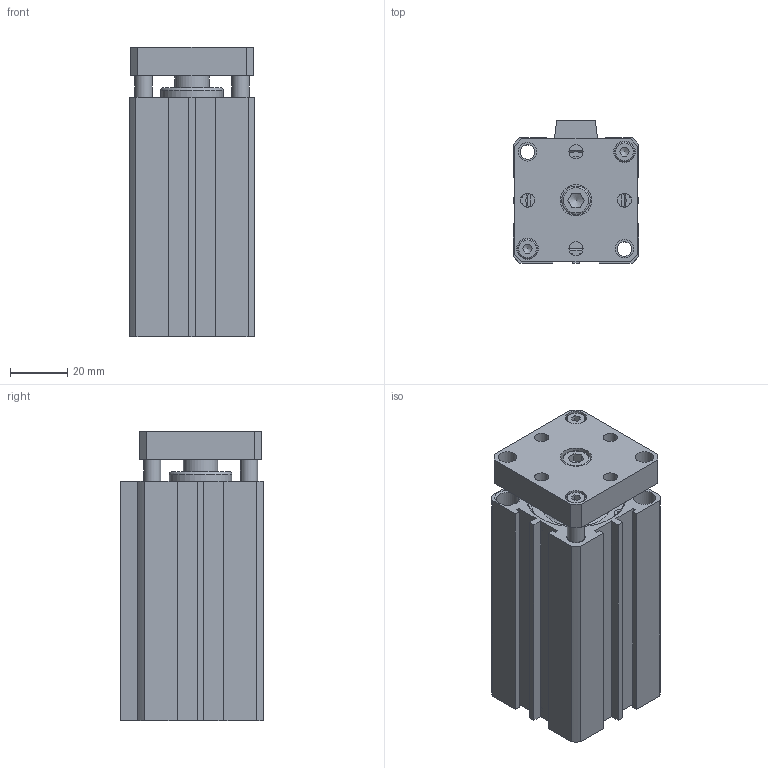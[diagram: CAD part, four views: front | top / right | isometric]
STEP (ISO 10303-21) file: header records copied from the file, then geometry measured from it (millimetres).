
FILE_DESCRIPTION((''),'2;1');
FILE_NAME('I:\3D電子目錄\氣缸\JTD\JTD\JTD32\JTD32x60.stp','2007-08-09T20:29:59',('Administrator'),(''),'Autodesk Inventor 11','Autodesk Inventor 11','');
FILE_SCHEMA(('AUTOMOTIVE_DESIGN { 1 0 10303 214 1 1 1 1 }'));
Length unit declared in the file: millimetre
Products named in the file (5): JTD32; R 形環 35; ISO 4762 M6 x 10; ISO 4762 M4 x 10
Assembly tree (6 placements, depth 2):
  JTD32
    JTD32
    R 形環 35  x2
    ISO 4762 M6 x 10
    ISO 4762 M4 x 10  x2
Bounding box: 44 x 50 x 101.5 mm (x, y, z)
Volume: 157640 mm3; surface area: 43598.7 mm2
Topology: 6 solids, 6 shells, 201 faces, 465 edges, 305 vertices
Faces by surface type: plane 114, cylinder 51, bspline 19, cone 12, torus 5
Full cylindrical faces by diameter (mm): 1.9 x4, 2.2 x2, 4 x2, 5.1 x2, 6 x3, 6.5 x4, 7 x2, 8 x4, 10 x1, 12 x1, 22 x1, 23 x1, 34 x4, 36 x2
Entity records: 5049 total; most frequent: CARTESIAN_POINT 1119, DIRECTION 784, ORIENTED_EDGE 684, EDGE_CURVE 342, AXIS2_PLACEMENT_3D 287, EDGE_LOOP 284, VERTEX_POINT 260, VECTOR 210
